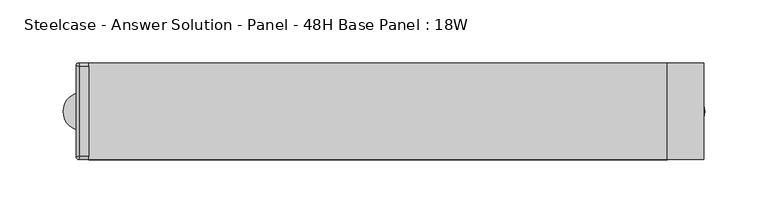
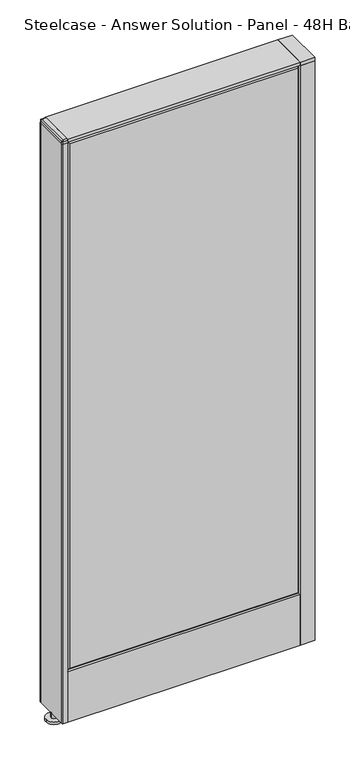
"""IFC4 building model written with IfcOpenShell, lengths in millimetres: furniture geometry, Steelcase - Answer Solution - Panel - 48H Base Panel : 18W."""

from ifc_helpers import new_model, si_unit, point, frame, frame_2d, origin, place, context, project, spatial, polyline, circle_curve, trimmed, segment, composite_curve, outline, extrude, faceted_brep, source, transform, mapped, element, save
from ifc_brep_helpers import plane_surface, spline_surface, advanced_brep


def steelcase_answer_solution_panel_48h_base_panel_18w_d7e625d7(model_context):
    return source(origin(), model_context, "Body", "SolidModel", [
        extrude(outline(composite_curve([segment(trimmed(circle_curve(frame_2d((242.824, 0.0320214)), 5.08), [point((247.904, 0.0320214))], [point((237.744, 0.0320214))], False, "CARTESIAN"), True, "CONTINUOUS"), segment(trimmed(circle_curve(frame_2d((242.824, 0.0320214)), 5.08), [point((237.744, 0.0320214))], [point((247.904, 0.0320214))], False, "CARTESIAN"), True, "CONTINUOUS")], self_intersect=False)), frame((0.0, 0.0, 5.0799671), z_axis=(0.0, 0.0, 1.0), x_axis=(1.0, 0.0, 0.0)), (0.0, 0.0, 1.0), 10.414),
        extrude(outline(composite_curve([segment(trimmed(circle_curve(frame_2d((242.824, 0.0320214)), 15.24), [point((258.064, 0.0320214))], [point((227.584, 0.0320214))], False, "CARTESIAN"), True, "CONTINUOUS"), segment(trimmed(circle_curve(frame_2d((242.824, 0.0320214)), 15.24), [point((227.584, 0.0320214))], [point((258.064, 0.0320214))], False, "CARTESIAN"), True, "CONTINUOUS")], self_intersect=False)), frame((0.0, 0.0, -3.29e-05), z_axis=(0.0, 0.0, 1.0), x_axis=(1.0, 0.0, 0.0)), (0.0, 0.0, 1.0), 5.08),
        extrude(outline(polyline([(257.175, 38.1320408), (257.175, -38.0679592), (228.6, -38.0679592), (228.6, 38.1320408), (257.175, 38.1320408)])), frame((0.0, 0.0, 1218.2348), z_axis=(0.0, 0.0, 1.0), x_axis=(1.0, 0.0, 0.0)), (0.0, 0.0, 1.0), 7.3151671),
        extrude(outline(polyline([(257.175, 38.1320408), (257.175, -38.0679592), (228.6, -38.0679592), (228.6, 38.1320408), (257.175, 38.1320408)])), frame((0.0, 0.0, 15.4939671), z_axis=(0.0, 0.0, 1.0), x_axis=(1.0, 0.0, 0.0)), (0.0, 0.0, 1.0), 1202.7408329),
        extrude(outline(composite_curve([segment(trimmed(circle_curve(frame_2d((-233.68, 0.0320214)), 5.08), [point((-238.76, 0.0320214))], [point((-228.6, 0.0320214))], False, "CARTESIAN"), True, "CONTINUOUS"), segment(trimmed(circle_curve(frame_2d((-233.68, 0.0320214)), 5.08), [point((-228.6, 0.0320214))], [point((-238.76, 0.0320214))], False, "CARTESIAN"), True, "CONTINUOUS")], self_intersect=False)), frame((0.0, 0.0, 5.0799671), z_axis=(0.0, 0.0, 1.0), x_axis=(1.0, 0.0, 0.0)), (0.0, 0.0, 1.0), 10.414),
        extrude(outline(composite_curve([segment(trimmed(circle_curve(frame_2d((-233.68, 0.0320214)), 15.24), [point((-248.92, 0.0320214))], [point((-218.44, 0.0320214))], False, "CARTESIAN"), True, "CONTINUOUS"), segment(trimmed(circle_curve(frame_2d((-233.68, 0.0320214)), 15.24), [point((-218.44, 0.0320214))], [point((-248.92, 0.0320214))], False, "CARTESIAN"), True, "CONTINUOUS")], self_intersect=False)), frame((0.0, 0.0, -3.29e-05), z_axis=(0.0, 0.0, 1.0), x_axis=(1.0, 0.0, 0.0)), (0.0, 0.0, 1.0), 5.08),
        advanced_brep(
        [(-235.9406, -35.2485592, 1225.5499671), (-228.6, -35.2485592, 1225.5499671), (-228.6, 35.3126408, 1225.5499671), (-235.9406, 35.3126408, 1225.5499671), (-236.8151197, -38.0679592, 1223.6704), (-238.76, -36.1230789, 1223.6704), (-238.76, 36.2403105, 1223.6704), (-236.8682696, 38.1320408, 1223.6704), (-228.6, 38.1320408, 1223.6704), (-228.6, -38.0679592, 1223.6704)],
        [
            (0, 1),
            (1, 2),
            (2, 3),
            (3, 0),
            (4, 0),
            (0, 5),
            (5, 4, circle_curve(frame((-236.8151197, -36.1230789, 1223.6704), z_axis=(0.0, 0.0, 1.0), x_axis=(0.0, 1.0, 0.0)), 1.9448803)),
            (3, 6),
            (6, 5),
            (3, 7),
            (7, 6, circle_curve(frame((-236.8682696, 36.2403105, 1223.6704), z_axis=(0.0, 0.0, 1.0), x_axis=(0.0, 1.0, 0.0)), 1.8917304)),
            (2, 8),
            (8, 7),
            (1, 9),
            (9, 8),
            (4, 9),
        ],
        [
            plane_surface(frame((-232.2703, 0.0320408, 1225.5499671), z_axis=(0.0, 0.0, 1.0), x_axis=(0.0, 1.0, 0.0))),
            spline_surface(1, 2, [[(-236.8151197, -38.0679592, 1223.6704), (-238.76, -38.0679592, 1223.6704), (-238.76, -36.1230789, 1223.6704)], [(-235.9406, -35.2485592, 1225.5499671), (-235.9406, -35.2485592, 1225.5499671), (-235.9406, -35.2485592, 1225.5499671)]], [2, 2], [3, 3], [0.0, 1.0], [0.0, 1.0], weights=[[1.0, 0.7071067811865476, 1.0], [1.0, 0.7071067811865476, 1.0]]),
            plane_surface(frame((-238.76, 0.0586158, 1223.6704), z_axis=(-0.554693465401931, 0.0, 0.832054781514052), x_axis=(0.0, 1.0, 0.0))),
            spline_surface(1, 2, [[(-238.76, 36.2403105, 1223.6704), (-238.76000009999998, 38.1320409, 1223.6704), (-236.8682696, 38.1320408, 1223.6704)], [(-235.9406, 35.3126408, 1225.5499671), (-235.9406, 35.3126408, 1225.5499671), (-235.9406, 35.3126408, 1225.5499671)]], [2, 2], [3, 3], [0.0, 1.0], [0.0, 1.0], weights=[[1.0, 0.7071067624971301, 1.0], [1.0, 0.7071067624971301, 1.0]]),
            plane_surface(frame((-232.7341348, 38.1320408, 1223.6704), z_axis=(0.0, 0.5546934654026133, 0.8320547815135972), x_axis=(1.0, 0.0, 0.0))),
            plane_surface(frame((-228.6, 0.0320408, 1223.6704), z_axis=(1.0, 0.0, 0.0), x_axis=(0.0, -1.0, 0.0))),
            plane_surface(frame((-232.7075599, -38.0679592, 1223.6704), z_axis=(0.0, -0.5546934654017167, 0.8320547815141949), x_axis=(-1.0, 0.0, 0.0))),
            plane_surface(frame((-234.7338982, 0.0408991, 1223.6704), z_axis=(0.0, 0.0, -1.0), x_axis=(0.0, 1.0, 0.0))),
        ],
        [
            (0, [[1, 2, 3, 4]]),
            (1, [[5, 6, 7]]),
            (2, [[-6, -4, 8, 9]]),
            (3, [[-8, 10, 11]]),
            (4, [[-10, -3, 12, 13]]),
            (5, [[-12, -2, 14, 15]]),
            (6, [[-14, -1, -5, 16]]),
            (7, [[-7, -9, -11, -13, -15, -16]]),
        ],
    ),
        extrude(outline(composite_curve([segment(trimmed(circle_curve(frame_2d((-236.8682696, 36.2403105)), 1.8917304), [point((-238.76, 36.2403105))], [point((-236.8682696, 38.1320408))], False, "CARTESIAN"), True, "CONTINUOUS"), segment(polyline([(-236.8682696, 38.1320408), (-228.6, 38.1320408), (-228.6, -38.0679592), (-236.8151197, -38.0679592)]), True, "CONTINUOUS"), segment(trimmed(circle_curve(frame_2d((-236.8151197, -36.1230789)), 1.9448803), [point((-236.8151197, -38.0679592))], [point((-238.76, -36.1230789))], False, "CARTESIAN"), True, "CONTINUOUS"), segment(polyline([(-238.76, -36.1230789), (-238.76, 36.2403105)]), True, "CONTINUOUS")], self_intersect=False)), frame((0.0, 0.0, 1218.2348), z_axis=(0.0, 0.0, 1.0), x_axis=(1.0, 0.0, 0.0)), (0.0, 0.0, 1.0), 5.4356),
        extrude(outline(composite_curve([segment(trimmed(circle_curve(frame_2d((-236.8879058, 36.2599466)), 1.8720942), [point((-238.76, 36.2599466))], [point((-236.8879058, 38.1320408))], False, "CARTESIAN"), True, "CONTINUOUS"), segment(polyline([(-236.8879058, 38.1320408), (-228.6, 38.1320408), (-228.6, -38.0679592), (-236.8193552, -38.0679592)]), True, "CONTINUOUS"), segment(trimmed(circle_curve(frame_2d((-236.8193552, -36.1273143)), 1.9406448), [point((-236.8193552, -38.0679592))], [point((-238.76, -36.1273143))], False, "CARTESIAN"), True, "CONTINUOUS"), segment(polyline([(-238.76, -36.1273143), (-238.76, 36.2599466)]), True, "CONTINUOUS")], self_intersect=False)), frame((0.0, 0.0, 15.4939671), z_axis=(0.0, 0.0, 1.0), x_axis=(1.0, 0.0, 0.0)), (0.0, 0.0, 1.0), 1202.7408329),
        faceted_brep([(-223.774, 38.1635011, 1214.374), (223.774, 38.1635011, 1214.374), (223.774, 38.1635011, 125.476), (-223.774, 38.1635011, 125.476), (-228.6, 33.3375011, 1219.2), (-228.6, 33.3375011, 120.65), (228.6, 33.3375011, 120.65), (228.6, 33.3375011, 1219.2)], [[[0, 1, 2, 3]], [[4, 5, 6, 7]], [[4, 7, 1, 0]], [[7, 6, 2, 1]], [[6, 5, 3, 2]], [[5, 4, 0, 3]]]),
        faceted_brep([(223.774, -38.1635011, 1214.374), (-223.774, -38.1635011, 1214.374), (-223.774, -38.1635011, 125.476), (223.774, -38.1635011, 125.476), (228.6, -33.3375011, 1219.2), (228.6, -33.3375011, 120.65), (-228.6, -33.3375011, 120.65), (-228.6, -33.3375011, 1219.2)], [[[0, 1, 2, 3]], [[4, 5, 6, 7]], [[4, 7, 1, 0]], [[7, 6, 2, 1]], [[6, 5, 3, 2]], [[5, 4, 0, 3]]]),
        extrude(outline(polyline([(228.6, 38.1000194), (228.6, -38.1000194), (-228.6, -38.1000194), (-228.6, 38.1000194), (228.6, 38.1000194)])), frame((0.0, 0.0, 1219.2), z_axis=(0.0, 0.0, 1.0), x_axis=(1.0, 0.0, 0.0)), (0.0, 0.0, 1.0), 6.35),
        extrude(outline(polyline([(25.4000011, 119.8575157), (25.4000011, 120.65), (38.1000194, 120.65), (38.1000194, 15.494), (37.3075215, 15.494), (37.3075215, 119.8575157), (25.4000011, 119.8575157)])), frame((-228.6, 0.0, 0.0), z_axis=(1.0, 0.0, 0.0), x_axis=(0.0, 1.0, 0.0)), (0.0, 0.0, 1.0), 457.2),
        extrude(outline(polyline([(-25.4000011, 119.8575157), (-37.3075215, 119.8575157), (-37.3075215, 15.494), (-38.1000194, 15.494), (-38.1000194, 120.65), (-25.4000011, 120.65), (-25.4000011, 119.8575157)])), frame((-228.6, 0.0, 0.0), z_axis=(1.0, 0.0, 0.0), x_axis=(0.0, 1.0, 0.0)), (0.0, 0.0, 1.0), 457.2),
    ])


if __name__ == "__main__":
    model = new_model("IFC4")
    model_context = context("Model", 3, world=origin())
    ifc_project = project(units=[si_unit("LENGTHUNIT", "METRE", prefix="MILLI")], contexts=[model_context])
    site = spatial("IfcSite", under=ifc_project)
    building = spatial("IfcBuilding", under=site)
    placement = place(None, origin())
    steelcase_answer_solution_panel_48h_base_panel_18w_shape = steelcase_answer_solution_panel_48h_base_panel_18w_d7e625d7(model_context)
    element("IfcFurniture", 1, ObjectType="Steelcase - Answer Solution - Panel - 48H Base Panel : 18W", at=placement, inside=building, context=model_context, shape_type="MappedRepresentation", body=[
        mapped(steelcase_answer_solution_panel_48h_base_panel_18w_shape, transform((0.0, 0.0, 0.0), x_axis=(1.0, 0.0, 0.0), y_axis=(0.0, 1.0, 0.0), z_axis=(0.0, 0.0, 1.0))),
    ])
    save(model, "model.ifc")
